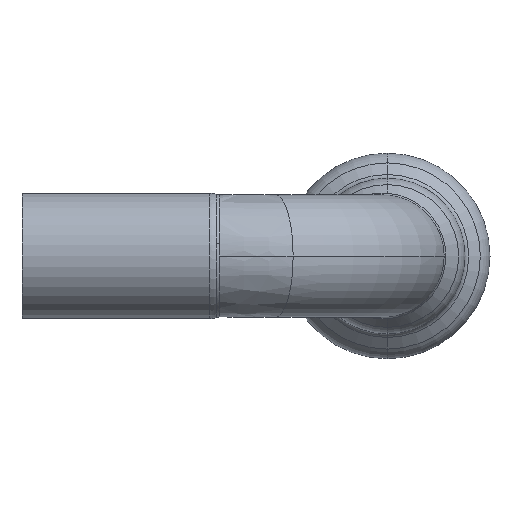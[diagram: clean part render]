
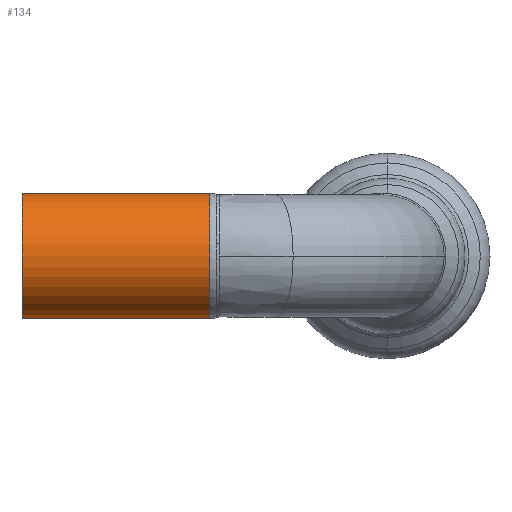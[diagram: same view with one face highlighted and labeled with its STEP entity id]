
A CAD part, left-side view. The second image highlights one B-rep face of the part: STEP entity #134.
In plain terms, the highlighted cylindrical face has radius 6 mm (diameter 12 mm), a partial arc.
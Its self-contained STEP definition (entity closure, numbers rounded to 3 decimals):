
#134 = ADVANCED_FACE ( 'NONE', ( #2948 ), #1473, .T. ) ;
#144 = DIRECTION ( 'NONE',  ( 0., 1., 0. ) ) ;
#193 = ORIENTED_EDGE ( 'NONE', *, *, #3200, .F. ) ;
#323 = ORIENTED_EDGE ( 'NONE', *, *, #1449, .F. ) ;
#438 = VERTEX_POINT ( 'NONE', #965 ) ;
#444 = VECTOR ( 'NONE', #1807, 1000. ) ;
#650 = ORIENTED_EDGE ( 'NONE', *, *, #679, .T. ) ;
#679 = EDGE_CURVE ( 'NONE', #1781, #438, #2738, .T. ) ;
#710 = CARTESIAN_POINT ( 'NONE',  ( 0., 35., -6. ) ) ;
#730 = VECTOR ( 'NONE', #1822, 1000. ) ;
#739 = CARTESIAN_POINT ( 'NONE',  ( 0., 75.103, 0. ) ) ;
#865 = VERTEX_POINT ( 'NONE', #2400 ) ;
#965 = CARTESIAN_POINT ( 'NONE',  ( 0., 35., 6. ) ) ;
#1008 = DIRECTION ( 'NONE',  ( 0., 0., 1. ) ) ;
#1044 = CARTESIAN_POINT ( 'NONE',  ( 0., 75.103, 6. ) ) ;
#1053 = LINE ( 'NONE', #3369, #444 ) ;
#1110 = EDGE_LOOP ( 'NONE', ( #323, #1902, #650, #193 ) ) ;
#1227 = VERTEX_POINT ( 'NONE', #710 ) ;
#1449 = EDGE_CURVE ( 'NONE', #865, #1227, #1053, .T. ) ;
#1473 = CYLINDRICAL_SURFACE ( 'NONE', #2423, 6. ) ;
#1501 = AXIS2_PLACEMENT_3D ( 'NONE', #3069, #1512, #3337 ) ;
#1512 = DIRECTION ( 'NONE',  ( 0., 1., 0. ) ) ;
#1717 = CARTESIAN_POINT ( 'NONE',  ( 0., 35., 0. ) ) ;
#1781 = VERTEX_POINT ( 'NONE', #2855 ) ;
#1807 = DIRECTION ( 'NONE',  ( 0., 1., 0. ) ) ;
#1822 = DIRECTION ( 'NONE',  ( 0., 1., 0. ) ) ;
#1902 = ORIENTED_EDGE ( 'NONE', *, *, #2699, .T. ) ;
#1989 = DIRECTION ( 'NONE',  ( 0., 0., 1. ) ) ;
#2400 = CARTESIAN_POINT ( 'NONE',  ( 0., 17., -6. ) ) ;
#2423 = AXIS2_PLACEMENT_3D ( 'NONE', #739, #2561, #1008 ) ;
#2561 = DIRECTION ( 'NONE',  ( 0., 1., 0. ) ) ;
#2699 = EDGE_CURVE ( 'NONE', #865, #1781, #2976, .T. ) ;
#2738 = LINE ( 'NONE', #1044, #730 ) ;
#2831 = AXIS2_PLACEMENT_3D ( 'NONE', #1717, #144, #1989 ) ;
#2836 = CIRCLE ( 'NONE', #2831, 6. ) ;
#2855 = CARTESIAN_POINT ( 'NONE',  ( 0., 17., 6. ) ) ;
#2948 = FACE_OUTER_BOUND ( 'NONE', #1110, .T. ) ;
#2976 = CIRCLE ( 'NONE', #1501, 6. ) ;
#3069 = CARTESIAN_POINT ( 'NONE',  ( 0., 17., 0. ) ) ;
#3200 = EDGE_CURVE ( 'NONE', #1227, #438, #2836, .T. ) ;
#3337 = DIRECTION ( 'NONE',  ( 0., 0., 1. ) ) ;
#3369 = CARTESIAN_POINT ( 'NONE',  ( 0., 75.103, -6. ) ) ;
